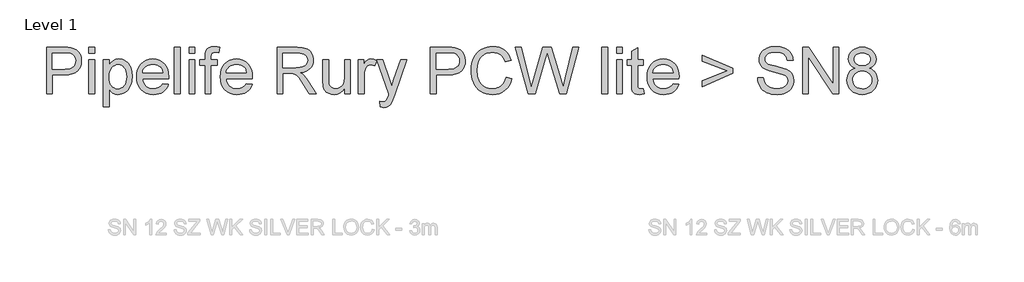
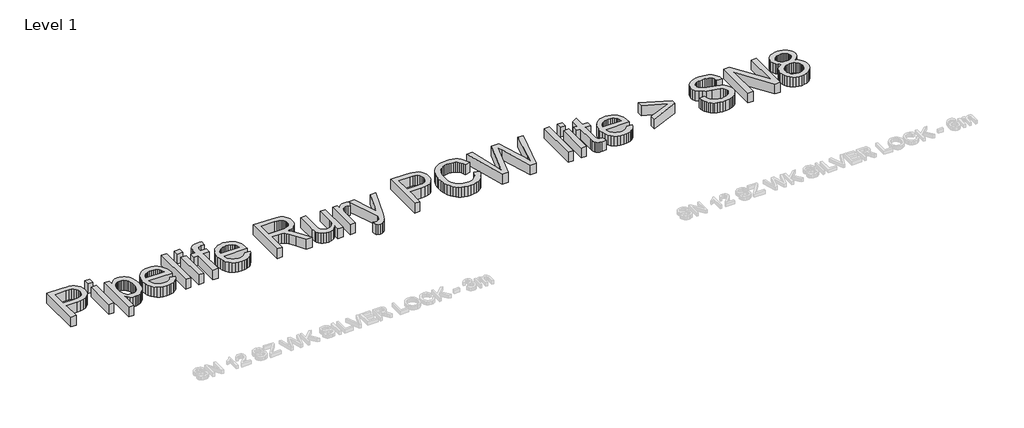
# One storey, part 4 of 8: 1 proxy.
"""IFC4 building model written with IfcOpenShell, lengths in millimetres."""

from ifc_helpers import new_model, si_unit, origin, origin_with_axes, place, context, project, spatial, polyline, outline, extrude, element, save

model = new_model("IFC4")

# Units and contexts
model_context = context("Model", 3, world=origin())
ifc_project = project(units=[si_unit("LENGTHUNIT", "METRE", prefix="MILLI")], contexts=[model_context])

# Site, building, storey
site = spatial("IfcSite", under=ifc_project)
building = spatial("IfcBuilding", under=site)
storey = spatial("IfcBuildingStorey", under=building, Name="Level 1", Elevation=0.0)

# Proxy
placement = place(None, origin())
element("IfcBuildingElementProxy", 1, Name="600mm Arial", ObjectType="600mm Arial", at=placement, inside=storey, context=model_context, shape_type="SweptSolid", body=[
    extrude(outline(polyline([(-16966.7426717, -10709.5373902), (-16966.7426717, -10106.7995293), (-16743.3647242, -10106.7995293), (-16691.3462101, -10108.2342691), (-16653.3072118, -10112.5384884), (-16613.152892, -10123.2622486), (-16580.0986947, -10140.7182492), (-16553.4824324, -10165.6974367), (-16532.6419174, -10198.9907573), (-16519.1774363, -10238.2621602), (-16514.689276, -10281.175595), (-16517.7197039, -10318.1753266), (-16526.8109877, -10352.2136083), (-16541.9631274, -10383.2904398), (-16563.176123, -10411.4058213), (-16592.2985814, -10434.7111457), (-16631.1791098, -10451.357806), (-16679.8177081, -10461.3458021), (-16738.2143763, -10464.6751342), (-16891.4004391, -10464.6751342), (-16891.4004391, -10709.5373902), (-16966.7426717, -10709.5373902)]), holes=[polyline([(-16891.4004391, -10389.3329016), (-16733.7997923, -10389.3329016), (-16697.5634158, -10387.6038562), (-16666.992422, -10382.4167201), (-16642.0868109, -10373.7714932), (-16622.8465826, -10361.6681755), (-16608.4899877, -10346.4286639), (-16598.2352771, -10328.374855), (-16592.0824507, -10307.5067488), (-16590.0315086, -10283.8243453), (-16594.8691569, -10249.9792018), (-16609.3821016, -10221.431559), (-16631.767721, -10199.9472504), (-16660.2233933, -10187.2921098), (-16689.2860709, -10183.4293489), (-16735.5656259, -10182.1417619), (-16891.4004391, -10182.1417619), (-16891.4004391, -10389.3329016)])]), origin_with_axes(), (0.0, 0.0, 1.0), 150.0),
    extrude(outline(polyline([(-16420.5114852, -10709.5373902), (-16420.5114852, -10266.9017736), (-16345.1692526, -10266.9017736), (-16345.1692526, -10709.5373902), (-16420.5114852, -10709.5373902)])), origin_with_axes(), (0.0, 0.0, 1.0), 150.0),
    extrude(outline(polyline([(-16420.5114852, -10182.1417619), (-16420.5114852, -10106.7995293), (-16345.1692526, -10106.7995293), (-16345.1692526, -10182.1417619), (-16420.5114852, -10182.1417619)])), origin_with_axes(), (0.0, 0.0, 1.0), 150.0),
    extrude(outline(polyline([(-16232.1559037, -10879.0574135), (-16232.1559037, -10266.9017736), (-16156.8136711, -10266.9017736), (-16156.8136711, -10340.7724782), (-16132.2391538, -10304.3337666), (-16104.7215806, -10278.3061154), (-16072.6422706, -10262.6895247), (-16034.3825431, -10257.4839945), (-16008.1065716, -10259.3050104), (-15983.4308868, -10264.768058), (-15960.3554886, -10273.8731374), (-15938.8803772, -10286.6202485), (-15919.4746019, -10302.6782976), (-15902.6072124, -10321.7161909), (-15888.2782087, -10343.7339283), (-15876.4875908, -10368.7315098), (-15860.7054532, -10424.2449029), (-15855.4447407, -10484.8350675), (-15861.3860349, -10549.269599), (-15868.8126527, -10578.9346834), (-15879.2099175, -10606.8983135), (-15892.4352753, -10632.429324), (-15908.3461716, -10654.7965493), (-15926.9426064, -10673.9999894), (-15948.2245798, -10690.0396444), (-15971.1482267, -10702.6901865), (-15994.6696817, -10711.726288), (-16018.788945, -10717.1479489), (-16043.5060166, -10718.9551692), (-16078.1421064, -10714.117521), (-16109.0625881, -10699.6045763), (-16135.5316977, -10677.6972035), (-16156.8136711, -10650.6762709), (-16156.8136711, -10879.0574135), (-16232.1559037, -10879.0574135)]), holes=[polyline([(-16156.8136711, -10491.751249), (-16154.7765246, -10528.0612019), (-16148.6650849, -10559.2943833), (-16138.4793522, -10585.4507932), (-16124.2193263, -10606.5304315), (-16107.0530327, -10622.7540275), (-16088.1484967, -10634.3423104), (-16067.5057182, -10641.2952801), (-16045.1246974, -10643.6129366), (-16022.4217797, -10641.2125066), (-16001.4019222, -10634.0112166), (-15982.0651249, -10622.0090665), (-15964.4113876, -10605.2060563), (-15949.7007063, -10583.3630629), (-15939.1930769, -10556.2409628), (-15932.8884992, -10523.8397561), (-15930.7869733, -10486.1594427), (-15932.8379154, -10450.1621895), (-15938.9907418, -10418.9841904), (-15949.2454524, -10392.6254454), (-15963.6020472, -10371.0859546), (-15980.8097276, -10354.3473238), (-15999.6176946, -10342.391159), (-16020.0259482, -10335.2174601), (-16042.0344886, -10332.8262271), (-16063.9740511, -10335.3692114), (-16084.6168295, -10342.9981643), (-16103.962824, -10355.7130857), (-16122.0120344, -10373.5139758), (-16137.2377504, -10396.1617111), (-16148.1132619, -10423.4171684), (-16154.6385688, -10455.2803477), (-16156.8136711, -10491.751249)])]), origin_with_axes(), (0.0, 0.0, 1.0), 150.0),
    extrude(outline(polyline([(-15460.7809362, -10577.6884831), (-15386.9102316, -10587.1062622), (-15398.2363985, -10616.6931716), (-15413.5264939, -10642.766808), (-15432.7805179, -10665.3271714), (-15455.9984703, -10684.3742617), (-15482.9412279, -10699.5034087), (-15513.3696674, -10710.3099424), (-15547.2837889, -10716.7938625), (-15584.6835922, -10718.9551692), (-15631.4321967, -10715.2257655), (-15673.0856356, -10704.0375543), (-15709.6439089, -10685.3905357), (-15741.1070165, -10659.2847096), (-15766.4081008, -10626.446643), (-15784.4803038, -10587.6029029), (-15795.3236256, -10542.7534891), (-15798.9380662, -10491.8984018), (-15795.2868374, -10439.3188677), (-15784.333151, -10392.9749333), (-15766.077007, -10352.8665988), (-15740.5184054, -10318.9938641), (-15709.1380712, -10292.0832961), (-15673.4167294, -10272.8614619), (-15633.3543802, -10261.3283613), (-15588.9510233, -10257.4839945), (-15545.9778078, -10261.3191643), (-15507.1156735, -10272.8246737), (-15472.3646205, -10292.0005227), (-15441.7246489, -10318.8467113), (-15416.7132717, -10352.6458696), (-15398.8480023, -10392.6806277), (-15388.1288407, -10438.9509857), (-15384.5557868, -10491.4569434), (-15384.9972452, -10511.7640296), (-15723.5958336, -10511.7640296), (-15719.2318334, -10541.8291856), (-15710.5544168, -10568.1603394), (-15697.5635839, -10590.757491), (-15680.2593345, -10609.6206403), (-15659.598162, -10624.4922699), (-15636.5365594, -10635.1148625), (-15611.0745268, -10641.4884181), (-15583.2120642, -10643.6129366), (-15543.1129267, -10639.6765993), (-15509.3413596, -10627.8675872), (-15481.8973627, -10607.4501365), (-15460.7809362, -10577.6884831)]), holes=[polyline([(-15723.5958336, -10436.4217969), (-15459.8980194, -10436.4217969), (-15470.0883507, -10396.6169651), (-15478.8531392, -10380.9635862), (-15490.064343, -10368.1428986), (-15510.6105525, -10352.6918548), (-15533.9894533, -10341.655395), (-15560.2010454, -10335.0335191), (-15589.2453289, -10332.8262271), (-15615.7374311, -10334.5874622), (-15640.0314384, -10339.8711673), (-15662.1273507, -10348.6773426), (-15682.0251681, -10361.0059879), (-15698.7224122, -10376.2868863), (-15711.2166044, -10393.9498206), (-15719.5077449, -10413.9947908), (-15723.5958336, -10436.4217969)])]), origin_with_axes(), (0.0, 0.0, 1.0), 150.0),
    extrude(outline(polyline([(-15309.2135542, -10709.5373902), (-15309.2135542, -10106.7995293), (-15233.8713216, -10106.7995293), (-15233.8713216, -10709.5373902), (-15309.2135542, -10709.5373902)])), origin_with_axes(), (0.0, 0.0, 1.0), 150.0),
    extrude(outline(polyline([(-15120.8579727, -10182.1417619), (-15120.8579727, -10106.7995293), (-15045.5157401, -10106.7995293), (-15045.5157401, -10182.1417619), (-15120.8579727, -10182.1417619)])), origin_with_axes(), (0.0, 0.0, 1.0), 150.0),
    extrude(outline(polyline([(-15120.8579727, -10709.5373902), (-15120.8579727, -10266.9017736), (-15045.5157401, -10266.9017736), (-15045.5157401, -10709.5373902), (-15120.8579727, -10709.5373902)])), origin_with_axes(), (0.0, 0.0, 1.0), 150.0),
    extrude(outline(polyline([(-14913.666833, -10709.5373902), (-14913.666833, -10342.2440062), (-14979.5912865, -10342.2440062), (-14979.5912865, -10266.9017736), (-14913.666833, -10266.9017736), (-14913.666833, -10222.3144758), (-14911.6802702, -10185.4159116), (-14905.7205819, -10159.480231), (-14890.5638437, -10134.4274671), (-14867.1665488, -10114.5986276), (-14834.4250512, -10101.6859695), (-14791.235705, -10097.3817502), (-14758.5309956, -10099.4418894), (-14722.5153483, -10105.6223069), (-14733.5518082, -10176.25565), (-14776.9618836, -10172.7239828), (-14805.6014969, -10175.8509798), (-14824.418661, -10185.2319706), (-14834.8481155, -10203.1478238), (-14838.3246004, -10231.8794076), (-14838.3246004, -10266.9017736), (-14753.5645887, -10266.9017736), (-14753.5645887, -10342.2440062), (-14838.3246004, -10342.2440062), (-14838.3246004, -10709.5373902), (-14913.666833, -10709.5373902)])), origin_with_axes(), (0.0, 0.0, 1.0), 150.0),
    extrude(outline(polyline([(-14377.7363424, -10577.6884831), (-14303.8656378, -10587.1062622), (-14315.1918047, -10616.6931716), (-14330.4819001, -10642.766808), (-14349.7359241, -10665.3271714), (-14372.9538765, -10684.3742617), (-14399.8966341, -10699.5034087), (-14430.3250736, -10710.3099424), (-14464.2391951, -10716.7938625), (-14501.6389984, -10718.9551692), (-14548.3876029, -10715.2257655), (-14590.0410418, -10704.0375543), (-14626.5993151, -10685.3905357), (-14658.0624227, -10659.2847096), (-14683.363507, -10626.446643), (-14701.43571, -10587.6029029), (-14712.2790318, -10542.7534891), (-14715.8934724, -10491.8984018), (-14712.2422436, -10439.3188677), (-14701.2885572, -10392.9749333), (-14683.0324132, -10352.8665988), (-14657.4738116, -10318.9938641), (-14626.0934774, -10292.0832961), (-14590.3721356, -10272.8614619), (-14550.3097864, -10261.3283613), (-14505.9064295, -10257.4839945), (-14462.933214, -10261.3191643), (-14424.0710797, -10272.8246737), (-14389.3200267, -10292.0005227), (-14358.6800551, -10318.8467113), (-14333.6686779, -10352.6458696), (-14315.8034085, -10392.6806277), (-14305.0842469, -10438.9509857), (-14301.511193, -10491.4569434), (-14301.9526514, -10511.7640296), (-14640.5512398, -10511.7640296), (-14636.1872396, -10541.8291856), (-14627.509823, -10568.1603394), (-14614.5189901, -10590.757491), (-14597.2147407, -10609.6206403), (-14576.5535682, -10624.4922699), (-14553.4919656, -10635.1148625), (-14528.029933, -10641.4884181), (-14500.1674704, -10643.6129366), (-14460.0683329, -10639.6765993), (-14426.2967658, -10627.8675872), (-14398.8527689, -10607.4501365), (-14377.7363424, -10577.6884831)]), holes=[polyline([(-14640.5512398, -10436.4217969), (-14376.8534256, -10436.4217969), (-14387.0437569, -10396.6169651), (-14395.8085454, -10380.9635862), (-14407.0197492, -10368.1428986), (-14427.5659587, -10352.6918548), (-14450.9448595, -10341.655395), (-14477.1564516, -10335.0335191), (-14506.2007351, -10332.8262271), (-14532.6928373, -10334.5874622), (-14556.9868446, -10339.8711673), (-14579.0827569, -10348.6773426), (-14598.9805743, -10361.0059879), (-14615.6778184, -10376.2868863), (-14628.1720106, -10393.9498206), (-14636.4631511, -10413.9947908), (-14640.5512398, -10436.4217969)])]), origin_with_axes(), (0.0, 0.0, 1.0), 150.0),
    extrude(outline(polyline([(-13981.3067044, -10709.5373902), (-13981.3067044, -10106.7995293), (-13721.5820158, -10106.7995293), (-13651.7764072, -10110.8646253), (-13600.9902978, -10123.0599135), (-13581.3913845, -10132.753604), (-13563.8710045, -10145.5742916), (-13548.4291577, -10161.5219761), (-13535.0658443, -10180.5966575), (-13524.2823033, -10201.7728649), (-13516.579774, -10224.025127), (-13511.9582565, -10247.3534441), (-13510.4177506, -10271.7578159), (-13512.9699319, -10302.7150858), (-13520.626476, -10331.1339699), (-13533.3873827, -10357.0144683), (-13551.2526521, -10380.3565809), (-13574.4522104, -10400.4153467), (-13603.2159839, -10416.4458046), (-13637.5439726, -10428.4479547), (-13677.4361764, -10436.4217969), (-13652.6041417, -10452.6453929), (-13634.6147122, -10468.6482597), (-13603.7494128, -10505.2525182), (-13573.546301, -10546.1977843), (-13473.0409399, -10709.5373902), (-13560.5968547, -10709.5373902), (-13639.0292961, -10584.6046646), (-13695.6831234, -10501.9047921), (-13716.7443676, -10477.7901273), (-13735.4879552, -10462.8357242), (-13771.3196616, -10448.4883264), (-13815.0240426, -10445.839576), (-13905.9644718, -10445.839576), (-13905.9644718, -10709.5373902), (-13981.3067044, -10709.5373902)]), holes=[polyline([(-13905.9644718, -10370.4973434), (-13737.3273652, -10370.4973434), (-13688.8957006, -10367.8301989), (-13651.3165547, -10359.8287656), (-13623.0264293, -10345.9596143), (-13602.4618258, -10325.6893164), (-13589.9354439, -10301.1699814), (-13585.7599832, -10274.5537191), (-13587.7511445, -10255.2858996), (-13593.7246284, -10237.8023078), (-13603.6804349, -10222.1029436), (-13617.618564, -10208.1878071), (-13635.8609124, -10196.7926623), (-13658.729377, -10188.6532732), (-13686.2239576, -10183.7696397), (-13718.3446543, -10182.1417619), (-13905.9644718, -10182.1417619), (-13905.9644718, -10370.4973434)])]), origin_with_axes(), (0.0, 0.0, 1.0), 150.0),
    extrude(outline(polyline([(-13105.4532503, -10709.5373902), (-13105.4532503, -10633.4593936), (-13132.7133061, -10670.8637954), (-13164.4615223, -10697.5812253), (-13200.6978989, -10713.6116833), (-13241.4224357, -10718.9551692), (-13278.1186647, -10715.2027729), (-13312.276508, -10703.9455838), (-13340.9345154, -10687.0230121), (-13361.131237, -10666.2744675), (-13374.7244767, -10641.0745509), (-13383.5720387, -10610.7978627), (-13387.9866226, -10540.7531308), (-13387.9866226, -10266.9017736), (-13312.64439, -10266.9017736), (-13312.64439, -10505.2893064), (-13311.5039558, -10552.966813), (-13308.0826532, -10582.103067), (-13297.1013757, -10607.726048), (-13278.2842116, -10627.2053996), (-13252.8819599, -10639.5110524), (-13222.1454192, -10643.6129366), (-13189.6430449, -10639.4190819), (-13159.237598, -10626.8375177), (-13134.16644, -10607.0270722), (-13117.6669325, -10581.1465739), (-13108.5066709, -10545.7011436), (-13105.4532503, -10497.1959026), (-13105.4532503, -10266.9017736), (-13030.1110177, -10266.9017736), (-13030.1110177, -10709.5373902), (-13105.4532503, -10709.5373902)])), origin_with_axes(), (0.0, 0.0, 1.0), 150.0),
    extrude(outline(polyline([(-12926.5154479, -10709.5373902), (-12926.5154479, -10266.9017736), (-12860.5909943, -10266.9017736), (-12860.5909943, -10332.3847687), (-12836.2372062, -10294.4193468), (-12813.7964045, -10272.0521215), (-12791.2820264, -10261.1260262), (-12766.7075091, -10257.4839945), (-12729.1835456, -10263.29653), (-12691.0709709, -10280.7341366), (-12716.2340994, -10348.2772709), (-12742.7216031, -10336.6889881), (-12769.2091067, -10332.8262271), (-12791.7050907, -10336.5418353), (-12811.8098418, -10347.6886597), (-12828.0518318, -10365.4205719), (-12838.959533, -10388.8914432), (-12848.1197947, -10430.9771434), (-12851.1732152, -10476.8888164), (-12851.1732152, -10709.5373902), (-12926.5154479, -10709.5373902)])), origin_with_axes(), (0.0, 0.0, 1.0), 150.0),
    extrude(outline(polyline([(-12643.9820756, -10879.0574135), (-12653.3998546, -10806.5110841), (-12615.1401271, -10813.13296), (-12595.016982, -10811.0544267), (-12579.3819972, -10804.8188269), (-12567.2051032, -10794.8676189), (-12557.4562303, -10781.6422612), (-12536.8548386, -10726.1656564), (-12530.9687266, -10707.9187094), (-12691.0709709, -10266.9017736), (-12611.60846, -10266.9017736), (-12526.7012955, -10512.6469463), (-12497.1235831, -10610.9450155), (-12467.5458707, -10524.1248646), (-12380.2842614, -10266.9017736), (-12301.4103616, -10266.9017736), (-12455.4793412, -10720.1323916), (-12495.5049023, -10818.4304607), (-12515.9959294, -10849.8107949), (-12539.2092833, -10871.5526208), (-12566.1750336, -10884.2445497), (-12597.9232498, -10888.4751926), (-12619.7386521, -10886.1207479), (-12643.9820756, -10879.0574135)])), origin_with_axes(), (0.0, 0.0, 1.0), 150.0),
    extrude(outline(polyline([(-11994.1553193, -10709.5373902), (-11994.1553193, -10106.7995293), (-11770.7773718, -10106.7995293), (-11718.7588577, -10108.2342691), (-11680.7198594, -10112.5384884), (-11640.5655396, -10123.2622486), (-11607.5113423, -10140.7182492), (-11580.89508, -10165.6974367), (-11560.054565, -10198.9907573), (-11546.5900839, -10238.2621602), (-11542.1019236, -10281.175595), (-11545.1323515, -10318.1753266), (-11554.2236353, -10352.2136083), (-11569.375775, -10383.2904398), (-11590.5887706, -10411.4058213), (-11619.711229, -10434.7111457), (-11658.5917574, -10451.357806), (-11707.2303557, -10461.3458021), (-11765.6270239, -10464.6751342), (-11918.8130867, -10464.6751342), (-11918.8130867, -10709.5373902), (-11994.1553193, -10709.5373902)]), holes=[polyline([(-11918.8130867, -10389.3329016), (-11761.2124399, -10389.3329016), (-11724.9760634, -10387.6038562), (-11694.4050696, -10382.4167201), (-11669.4994585, -10373.7714932), (-11650.2592302, -10361.6681755), (-11635.9026353, -10346.4286639), (-11625.6479247, -10328.374855), (-11619.4950983, -10307.5067488), (-11617.4441562, -10283.8243453), (-11622.2818045, -10249.9792018), (-11636.7947492, -10221.431559), (-11659.1803686, -10199.9472504), (-11687.6360409, -10187.2921098), (-11716.6987185, -10183.4293489), (-11762.9782735, -10182.1417619), (-11918.8130867, -10182.1417619), (-11918.8130867, -10389.3329016)])]), origin_with_axes(), (0.0, 0.0, 1.0), 150.0),
    extrude(outline(polyline([(-11014.7062953, -10495.2829162), (-10939.3640627, -10514.7070855), (-10954.2724806, -10561.5614561), (-10974.1289112, -10602.5021237), (-10998.9333548, -10637.5290881), (-11028.6858111, -10666.6423495), (-11062.7148957, -10689.5292082), (-11100.3492238, -10705.8769643), (-11141.5887955, -10715.685618), (-11186.4336107, -10718.9551692), (-11232.3774733, -10716.4811628), (-11273.8239786, -10709.0591436), (-11310.7731265, -10696.6891115), (-11343.224917, -10679.3710666), (-11371.625407, -10657.3625262), (-11396.4206535, -10630.9210078), (-11417.6106564, -10600.0465114), (-11435.1954158, -10564.7390369), (-11449.0047862, -10526.5252946), (-11458.8686222, -10486.9319949), (-11464.7869238, -10445.9591377), (-11466.759691, -10403.606723), (-11464.5294064, -10358.1640995), (-11457.8385526, -10315.7197143), (-11446.6871296, -10276.2735674), (-11431.0751375, -10239.8256587), (-11411.352064, -10206.9783951), (-11387.8673971, -10178.3341832), (-11360.6211369, -10153.8930232), (-11329.6132832, -10133.6549149), (-11295.8968983, -10117.7854054), (-11260.5250445, -10106.4500414), (-11223.4977217, -10099.648823), (-11184.8149299, -10097.3817502), (-11141.7221527, -10100.3156091), (-11102.2070279, -10109.1171858), (-11066.2695555, -10123.7864804), (-11033.9097355, -10144.3234928), (-11005.6609968, -10170.185597), (-10982.0567682, -10200.8301672), (-10963.0970499, -10236.2572034), (-10948.7818418, -10276.4667054), (-11024.1240744, -10294.4193468), (-11035.9882687, -10264.7910506), (-11050.2436961, -10239.4761708), (-11066.8903563, -10218.4747074), (-11085.9282496, -10201.7866604), (-11107.4677404, -10189.071739), (-11131.6191934, -10179.9896522), (-11158.3826085, -10174.5404002), (-11187.7579858, -10172.7239828), (-11221.5571442, -10174.7381367), (-11252.4684288, -10180.7805985), (-11280.4918398, -10190.8513681), (-11305.6273771, -10204.9504456), (-11327.5577425, -10222.4432345), (-11345.9656379, -10242.6951383), (-11360.8510631, -10265.7061571), (-11372.2140182, -10291.4762908), (-11386.6165983, -10346.6218019), (-11391.4174584, -10403.4595702), (-11385.7336816, -10473.0628437), (-11378.6289605, -10504.3328133), (-11368.6823511, -10533.2483381), (-11355.7329048, -10559.2346025), (-11339.6196735, -10581.7167909), (-11320.3426569, -10600.6949034), (-11297.9018552, -10616.1689398), (-11273.3871187, -10628.1756884), (-11247.888298, -10636.7519374), (-11221.4053928, -10641.8976868), (-11193.9384034, -10643.6129366), (-11161.1831102, -10641.276886), (-11131.0489763, -10634.268734), (-11103.5360016, -10622.5884806), (-11078.6441861, -10606.2361259), (-11056.962141, -10585.2852463), (-11039.0784775, -10559.8094181), (-11024.9931956, -10529.8086414), (-11014.7062953, -10495.2829162)])), origin_with_axes(), (0.0, 0.0, 1.0), 150.0),
    extrude(outline(polyline([(-10727.9054919, -10709.5373902), (-10892.2751673, -10106.7995293), (-10814.5784899, -10106.7995293), (-10719.2234768, -10502.9348617), (-10689.7929172, -10625.2188369), (-10658.3022184, -10517.0615303), (-10538.8141464, -10106.7995293), (-10426.830867, -10106.7995293), (-10340.0107162, -10404.1953342), (-10302.8178464, -10514.5599327), (-10275.4106378, -10625.2188369), (-10246.862995, -10506.4665288), (-10150.625065, -10106.7995293), (-10072.9283877, -10106.7995293), (-10237.4452159, -10709.5373902), (-10317.9377965, -10709.5373902), (-10462.4418442, -10244.5345483), (-10482.6017775, -10179.6401643), (-10505.2633084, -10257.7783001), (-10636.9650627, -10709.5373902), (-10727.9054919, -10709.5373902)])), origin_with_axes(), (0.0, 0.0, 1.0), 150.0),
    extrude(outline(polyline([(-9771.5594572, -10709.5373902), (-9771.5594572, -10106.7995293), (-9696.2172246, -10106.7995293), (-9696.2172246, -10709.5373902), (-9771.5594572, -10709.5373902)])), origin_with_axes(), (0.0, 0.0, 1.0), 150.0),
    extrude(outline(polyline([(-9583.2038757, -10182.1417619), (-9583.2038757, -10106.7995293), (-9507.8616431, -10106.7995293), (-9507.8616431, -10182.1417619), (-9583.2038757, -10182.1417619)])), origin_with_axes(), (0.0, 0.0, 1.0), 150.0),
    extrude(outline(polyline([(-9583.2038757, -10709.5373902), (-9583.2038757, -10266.9017736), (-9507.8616431, -10266.9017736), (-9507.8616431, -10709.5373902), (-9583.2038757, -10709.5373902)])), origin_with_axes(), (0.0, 0.0, 1.0), 150.0),
    extrude(outline(polyline([(-9234.7460499, -10646.7031454), (-9225.3282708, -10711.7446821), (-9281.6877924, -10718.9551692), (-9317.8505926, -10715.8281723), (-9344.8163428, -10706.4471814), (-9363.8726302, -10691.989419), (-9376.3070416, -10673.6321074), (-9383.1496467, -10642.1046205), (-9385.4305151, -10588.1363318), (-9385.4305151, -10342.2440062), (-9441.9371895, -10342.2440062), (-9441.9371895, -10266.9017736), (-9385.4305151, -10266.9017736), (-9385.4305151, -10159.3330782), (-9310.0882825, -10115.040086), (-9310.0882825, -10266.9017736), (-9234.7460499, -10266.9017736), (-9234.7460499, -10342.2440062), (-9310.0882825, -10342.2440062), (-9310.0882825, -10585.9290398), (-9306.1151569, -10624.7773785), (-9293.2392871, -10638.5361651), (-9282.3683741, -10642.3437437), (-9267.5611238, -10643.6129366), (-9234.7460499, -10646.7031454)])), origin_with_axes(), (0.0, 0.0, 1.0), 150.0),
    extrude(outline(polyline([(-8849.5000245, -10577.6884831), (-8775.6293199, -10587.1062622), (-8786.9554868, -10616.6931716), (-8802.2455822, -10642.766808), (-8821.4996061, -10665.3271714), (-8844.7175586, -10684.3742617), (-8871.6603162, -10699.5034087), (-8902.0887557, -10710.3099424), (-8936.0028771, -10716.7938625), (-8973.4026805, -10718.9551692), (-9020.151285, -10715.2257655), (-9061.8047239, -10704.0375543), (-9098.3629972, -10685.3905357), (-9129.8261048, -10659.2847096), (-9155.127189, -10626.446643), (-9173.1993921, -10587.6029029), (-9184.0427139, -10542.7534891), (-9187.6571545, -10491.8984018), (-9184.0059257, -10439.3188677), (-9173.0522393, -10392.9749333), (-9154.7960953, -10352.8665988), (-9129.2374936, -10318.9938641), (-9097.8571594, -10292.0832961), (-9062.1358177, -10272.8614619), (-9022.0734684, -10261.3283613), (-8977.6701116, -10257.4839945), (-8934.6968961, -10261.3191643), (-8895.8347618, -10272.8246737), (-8861.0837088, -10292.0005227), (-8830.4437372, -10318.8467113), (-8805.43236, -10352.6458696), (-8787.5670906, -10392.6806277), (-8776.847929, -10438.9509857), (-8773.2748751, -10491.4569434), (-8773.7163335, -10511.7640296), (-9112.3149219, -10511.7640296), (-9107.9509217, -10541.8291856), (-9099.2735051, -10568.1603394), (-9086.2826722, -10590.757491), (-9068.9784228, -10609.6206403), (-9048.3172503, -10624.4922699), (-9025.2556477, -10635.1148625), (-8999.7936151, -10641.4884181), (-8971.9311525, -10643.6129366), (-8931.832015, -10639.6765993), (-8898.0604479, -10627.8675872), (-8870.616451, -10607.4501365), (-8849.5000245, -10577.6884831)]), holes=[polyline([(-9112.3149219, -10436.4217969), (-8848.6171077, -10436.4217969), (-8858.807439, -10396.6169651), (-8867.5722275, -10380.9635862), (-8878.7834313, -10368.1428986), (-8899.3296408, -10352.6918548), (-8922.7085415, -10341.655395), (-8948.9201337, -10335.0335191), (-8977.9644172, -10332.8262271), (-9004.4565194, -10334.5874622), (-9028.7505267, -10339.8711673), (-9050.846439, -10348.6773426), (-9070.7442564, -10361.0059879), (-9087.4415005, -10376.2868863), (-9099.9356927, -10393.9498206), (-9108.2268332, -10413.9947908), (-9112.3149219, -10436.4217969)])]), origin_with_axes(), (0.0, 0.0, 1.0), 150.0),
    extrude(outline(polyline([(-8076.3592234, -10445.839576), (-8471.9059447, -10615.3595994), (-8471.9059447, -10540.0173668), (-8151.7014561, -10412.8773493), (-8471.9059447, -10285.7373317), (-8471.9059447, -10210.3950991), (-8076.3592234, -10379.9151225), (-8076.3592234, -10445.839576)])), origin_with_axes(), (0.0, 0.0, 1.0), 150.0),
    extrude(outline(polyline([(-7756.1547348, -10502.3462505), (-7680.8125022, -10502.3462505), (-7672.1672753, -10544.1560392), (-7656.5322905, -10577.7620595), (-7632.1417143, -10604.4335041), (-7597.2297129, -10625.4395661), (-7554.5554015, -10639.069594), (-7506.8778949, -10643.6129366), (-7464.9025593, -10640.17324), (-7428.1511479, -10629.85415), (-7398.3711004, -10613.5201894), (-7377.3098562, -10592.0358809), (-7364.7834743, -10567.3693931), (-7360.6080136, -10541.4888948), (-7363.7350106, -10516.270584), (-7373.1160015, -10494.4735758), (-7392.1722888, -10475.8771409), (-7424.3251752, -10460.2605502), (-7534.0275862, -10431.4921782), (-7606.0404867, -10412.454285), (-7652.1177066, -10394.3360967), (-7689.623276, -10368.9890272), (-7716.2027502, -10338.2708806), (-7732.0400701, -10302.8438445), (-7737.3191767, -10263.3701064), (-7735.6867003, -10240.9339032), (-7730.7892713, -10219.2426611), (-7722.6268895, -10198.29638), (-7711.199555, -10178.0950599), (-7696.6360265, -10159.4618369), (-7679.0650627, -10143.2198468), (-7658.4866636, -10129.3690897), (-7634.9008292, -10117.9095655), (-7581.8890337, -10102.513704), (-7523.2118555, -10097.3817502), (-7459.6418467, -10102.7528273), (-7404.0180891, -10118.8660587), (-7379.6826951, -10130.8682088), (-7358.3271453, -10145.3903506), (-7339.9514396, -10162.432484), (-7324.5555781, -10181.9946091), (-7312.2591224, -10203.5065088), (-7303.1816342, -10226.3979659), (-7297.3231134, -10250.6689805), (-7294.6835601, -10276.3195526), (-7370.0257927, -10276.3195526), (-7375.065776, -10252.2784643), (-7383.8581557, -10231.3643728), (-7396.4029318, -10213.5772784), (-7412.7001041, -10198.9171809), (-7433.0531755, -10187.4576567), (-7457.7656486, -10179.2722823), (-7486.8375232, -10174.3610577), (-7520.2687995, -10172.7239828), (-7554.7669336, -10174.3426636), (-7584.2434785, -10179.1987059), (-7608.6984341, -10187.2921098), (-7628.1318005, -10198.6228753), (-7642.9390508, -10212.2437061), (-7653.5156582, -10227.2073063), (-7659.8616226, -10243.5136757), (-7661.9769441, -10261.1628144), (-7660.4778249, -10276.3471438), (-7655.9804676, -10290.1151275), (-7648.4848719, -10302.4667655), (-7637.991038, -10313.4020578), (-7621.4731364, -10323.7579359), (-7595.4638793, -10334.2241787), (-7514.9712988, -10355.487758), (-7431.9035443, -10375.6844795), (-7381.6508637, -10393.3060271), (-7338.7006408, -10420.6396594), (-7322.0953673, -10436.7069055), (-7308.7366523, -10454.3744383), (-7298.4681461, -10473.5502873), (-7291.1334988, -10494.142482), (-7285.265781, -10539.5759084), (-7286.9534397, -10563.1433487), (-7292.0164156, -10586.0210103), (-7300.4547089, -10608.2088931), (-7312.2683195, -10629.7069972), (-7327.2503137, -10649.6829896), (-7345.193758, -10667.3045371), (-7366.0986524, -10682.5716399), (-7389.9649968, -10695.484298), (-7416.0984141, -10705.7528041), (-7443.8045268, -10713.0874514), (-7503.9348389, -10718.9551692), (-7542.4750765, -10717.3732767), (-7577.7503613, -10712.6275989), (-7609.7606934, -10704.718136), (-7638.5060728, -10693.644888), (-7664.1612434, -10679.3894607), (-7686.9009492, -10661.93346), (-7706.7251903, -10641.276886), (-7723.6339665, -10617.4197386), (-7737.2547973, -10591.13457), (-7747.2152024, -10563.1939325), (-7753.5151815, -10533.597826), (-7756.1547348, -10502.3462505)])), origin_with_axes(), (0.0, 0.0, 1.0), 150.0),
    extrude(outline(polyline([(-7172.2524321, -10709.5373902), (-7172.2524321, -10106.7995293), (-7091.6126988, -10106.7995293), (-6776.7057109, -10584.310359), (-6776.7057109, -10106.7995293), (-6701.3634783, -10106.7995293), (-6701.3634783, -10709.5373902), (-6782.0032116, -10709.5373902), (-7096.9101995, -10231.8794076), (-7096.9101995, -10709.5373902), (-7172.2524321, -10709.5373902)])), origin_with_axes(), (0.0, 0.0, 1.0), 150.0),
    extrude(outline(polyline([(-6487.9919211, -10377.5606777), (-6528.3301818, -10357.69505), (-6543.9881593, -10345.1134857), (-6556.6387014, -10330.7660879), (-6573.358938, -10297.3256146), (-6578.9323503, -10257.9254529), (-6575.8973238, -10227.1981092), (-6566.7922444, -10199.0275455), (-6551.6171121, -10173.4137615), (-6530.3719269, -10150.3567575), (-6504.0775613, -10131.3004701), (-6473.7548879, -10117.6888363), (-6439.4039066, -10109.521856), (-6401.0246174, -10106.7995293), (-6362.4613873, -10109.5862354), (-6327.8528886, -10117.9463537), (-6297.1991213, -10131.8798843), (-6270.5000855, -10151.3868271), (-6248.8686242, -10174.8944866), (-6233.4175804, -10200.8301672), (-6224.1469541, -10229.1938691), (-6221.0567454, -10259.9855921), (-6226.5565812, -10298.1165609), (-6243.0560887, -10330.9868171), (-6255.4767045, -10345.2376459), (-6270.7392088, -10357.7502323), (-6309.7898826, -10377.5606777), (-6285.0268258, -10388.0958984), (-6263.4183571, -10401.4546133), (-6244.9644765, -10417.6368226), (-6229.6651841, -10436.6425261), (-6217.6584354, -10458.0486597), (-6209.0821864, -10481.4321591), (-6203.936437, -10506.7930241), (-6202.2211872, -10534.1312549), (-6205.6240957, -10571.7104007), (-6215.832821, -10606.1625495), (-6232.8473633, -10637.4877014), (-6256.6677225, -10665.6858563), (-6286.0430998, -10688.9911807), (-6319.7226965, -10705.637841), (-6357.7065125, -10715.6258372), (-6399.9945478, -10718.9551692), (-6442.2825832, -10715.6120416), (-6480.2663992, -10705.5826587), (-6513.9459958, -10688.8670206), (-6543.3213731, -10665.4651271), (-6567.1417323, -10637.0692356), (-6584.1562746, -10605.3716032), (-6594.365, -10570.3722299), (-6597.7679084, -10532.0711157), (-6595.9836807, -10503.4866847), (-6590.6309977, -10477.3302748), (-6581.7098593, -10453.6018861), (-6569.2202656, -10432.3015186), (-6553.438128, -10413.8154483), (-6534.6393581, -10398.5299514), (-6512.8239557, -10386.4450279), (-6487.9919211, -10377.5606777)]), holes=[polyline([(-6503.5901177, -10260.1327449), (-6501.9208531, -10277.4048045), (-6496.9130594, -10293.0213952), (-6488.5667367, -10306.9825169), (-6476.8818848, -10319.2881697), (-6462.0056566, -10329.3313482), (-6444.0852049, -10336.5050471), (-6423.1205297, -10340.8092664), (-6399.111631, -10342.2440062), (-6375.695942, -10340.8184635), (-6355.1865208, -10336.5418353), (-6337.5833673, -10329.4141216), (-6322.8864816, -10319.4353225), (-6311.2981988, -10307.3871871), (-6303.0208539, -10294.0514648), (-6298.054447, -10279.4281555), (-6296.398978, -10263.5172592), (-6298.1096293, -10246.9855621), (-6303.2415831, -10231.8242253), (-6311.7948395, -10218.033249), (-6323.7693984, -10205.6126332), (-6338.7973779, -10195.344127), (-6356.510896, -10188.0094797), (-6376.9099526, -10183.6086913), (-6399.9945478, -10182.1417619), (-6423.2584855, -10183.5765017), (-6443.7541111, -10187.880721), (-6461.4814248, -10195.0544199), (-6476.4404264, -10205.0975984), (-6488.3184163, -10217.1457337), (-6496.8026948, -10230.3343033), (-6501.893262, -10244.663307), (-6503.5901177, -10260.1327449)]), polyline([(-6522.4256758, -10529.4223653), (-6519.2802848, -10558.2459197), (-6509.8441116, -10586.149769), (-6492.4248991, -10610.485163), (-6465.3303902, -10628.6033512), (-6432.8831982, -10639.8605403), (-6399.4059366, -10643.6129366), (-6372.1642749, -10641.6401694), (-6348.1231865, -10635.7218678), (-6327.2826715, -10625.8580318), (-6309.6427298, -10612.0486614), (-6295.6080317, -10595.1950675), (-6285.5832473, -10576.198561), (-6279.5683767, -10555.0591419), (-6277.5634198, -10531.7768101), (-6279.632756, -10508.1219978), (-6285.8407647, -10486.6009011), (-6296.1874458, -10467.2135199), (-6310.6727994, -10449.9598544), (-6328.7909877, -10435.7963976), (-6350.0361729, -10425.6796427), (-6374.4083551, -10419.6095898), (-6401.9075342, -10417.5862388), (-6428.7491243, -10419.5819986), (-6452.4729144, -10425.5692781), (-6473.0789047, -10435.5480772), (-6490.567095, -10449.518396), (-6504.5052241, -10466.486953), (-6514.4610306, -10485.4604669), (-6520.4345145, -10506.4389377), (-6522.4256758, -10529.4223653)])]), origin_with_axes(), (0.0, 0.0, 1.0), 150.0),
])

save(model, "model.ifc")
